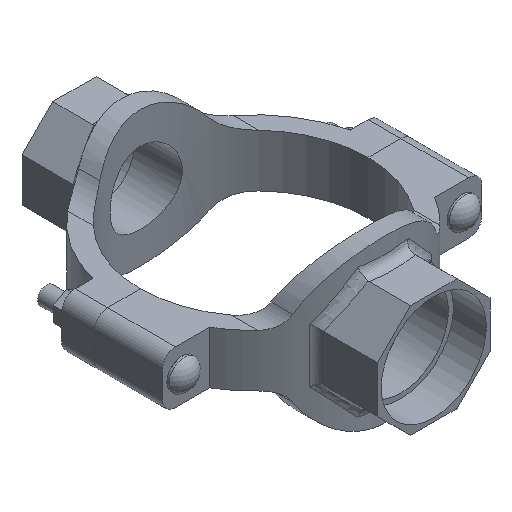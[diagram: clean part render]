
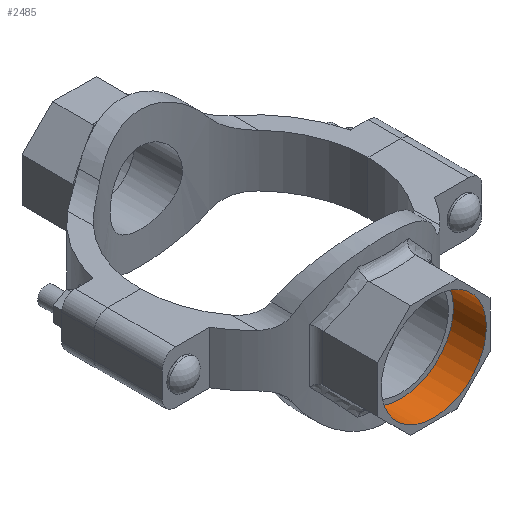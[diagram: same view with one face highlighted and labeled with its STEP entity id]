
A CAD part, isometric view. The second image highlights one B-rep face of the part: STEP entity #2485.
In plain terms, the highlighted cylindrical face has radius 38.1 mm (diameter 76.2 mm), a full revolution.
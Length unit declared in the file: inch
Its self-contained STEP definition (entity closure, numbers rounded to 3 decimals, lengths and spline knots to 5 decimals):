
#151=CYLINDRICAL_SURFACE('',#2757,1.5);
#287=FACE_OUTER_BOUND('',#432,.T.);
#432=EDGE_LOOP('',(#2023,#2024,#2025,#2026));
#613=LINE('',#4885,#797);
#797=VECTOR('',#3317,1.5);
#905=CIRCLE('',#2758,1.5);
#906=CIRCLE('',#2759,1.5);
#1118=VERTEX_POINT('',#4882);
#1119=VERTEX_POINT('',#4884);
#1437=EDGE_CURVE('',#1118,#1118,#905,.T.);
#1438=EDGE_CURVE('',#1118,#1119,#613,.T.);
#1439=EDGE_CURVE('',#1119,#1119,#906,.T.);
#2023=ORIENTED_EDGE('',*,*,#1437,.F.);
#2024=ORIENTED_EDGE('',*,*,#1438,.T.);
#2025=ORIENTED_EDGE('',*,*,#1439,.T.);
#2026=ORIENTED_EDGE('',*,*,#1438,.F.);
#2485=ADVANCED_FACE('',(#287),#151,.F.);
#2757=AXIS2_PLACEMENT_3D('',#4881,#3313,#3314);
#2758=AXIS2_PLACEMENT_3D('',#4883,#3315,#3316);
#2759=AXIS2_PLACEMENT_3D('',#4886,#3318,#3319);
#3313=DIRECTION('center_axis',(0.,-1.,0.));
#3314=DIRECTION('ref_axis',(-1.,0.,0.));
#3315=DIRECTION('center_axis',(0.,-1.,0.));
#3316=DIRECTION('ref_axis',(-1.,0.,0.));
#3317=DIRECTION('',(0.,-1.,0.));
#3318=DIRECTION('center_axis',(0.,-1.,0.));
#3319=DIRECTION('ref_axis',(-1.,0.,0.));
#4881=CARTESIAN_POINT('Origin',(0.,5.13,0.));
#4882=CARTESIAN_POINT('',(1.5,5.13,0.));
#4883=CARTESIAN_POINT('Origin',(0.,5.13,0.));
#4884=CARTESIAN_POINT('',(1.5,4.19,0.));
#4885=CARTESIAN_POINT('',(1.5,5.13,0.));
#4886=CARTESIAN_POINT('Origin',(0.,4.19,0.));
